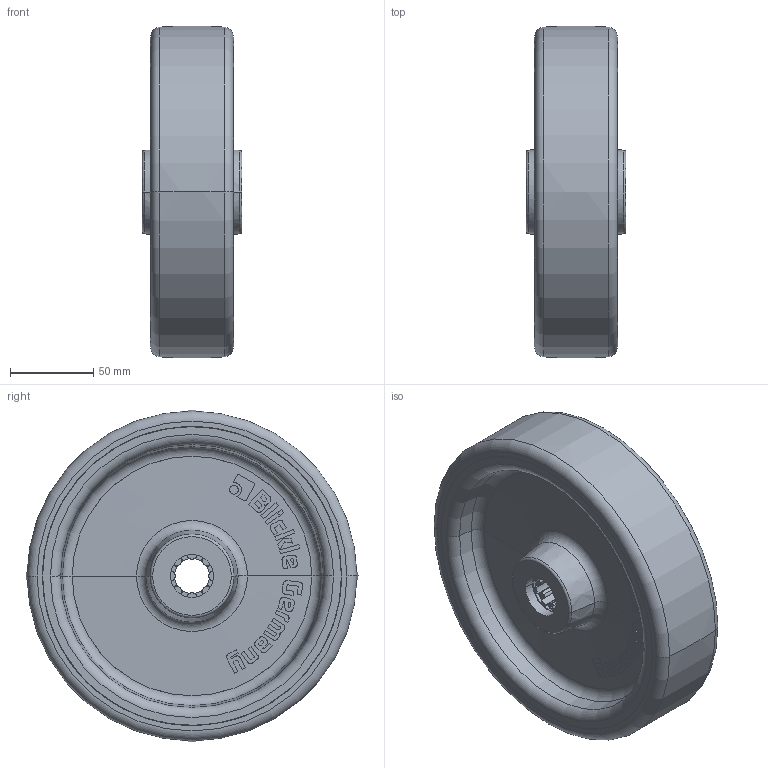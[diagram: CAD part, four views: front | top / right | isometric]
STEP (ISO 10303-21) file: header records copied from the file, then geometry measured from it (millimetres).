
FILE_DESCRIPTION (( 'STEP AP214' ), '1' );
FILE_NAME ('POTH_200_20R_044438-214.step', '2021-10-26T08:08:58', ( '' ), ( '' ), 'SwSTEP 2.0', 'SolidWorks 2018', '' );
FILE_SCHEMA (( 'AUTOMOTIVE_DESIGN' ));
Length unit declared in the file: millimetre
Products named in the file (2): POTH_200_20R_G16_3D; POTH_200_20R_044438-214
Assembly tree (1 placements, depth 2):
  POTH_200_20R_044438-214
    POTH_200_20R_G16_3D
Bounding box: 60 x 199.83 x 199.83 mm (x, y, z)
Volume: 899934.1 mm3; surface area: 124452.9 mm2
Topology: 1 solids, 9 shells, 728 faces, 1959 edges, 1296 vertices
Faces by surface type: plane 341, bspline 216, cylinder 89, cone 60, torus 22
Entity records: 33553 total; most frequent: CARTESIAN_POINT 15999, ORIENTED_EDGE 3918, DIRECTION 2351, EDGE_CURVE 1959, VERTEX_POINT 1296, B_SPLINE_CURVE_WITH_KNOTS 980, AXIS2_PLACEMENT_3D 860, EDGE_LOOP 793
